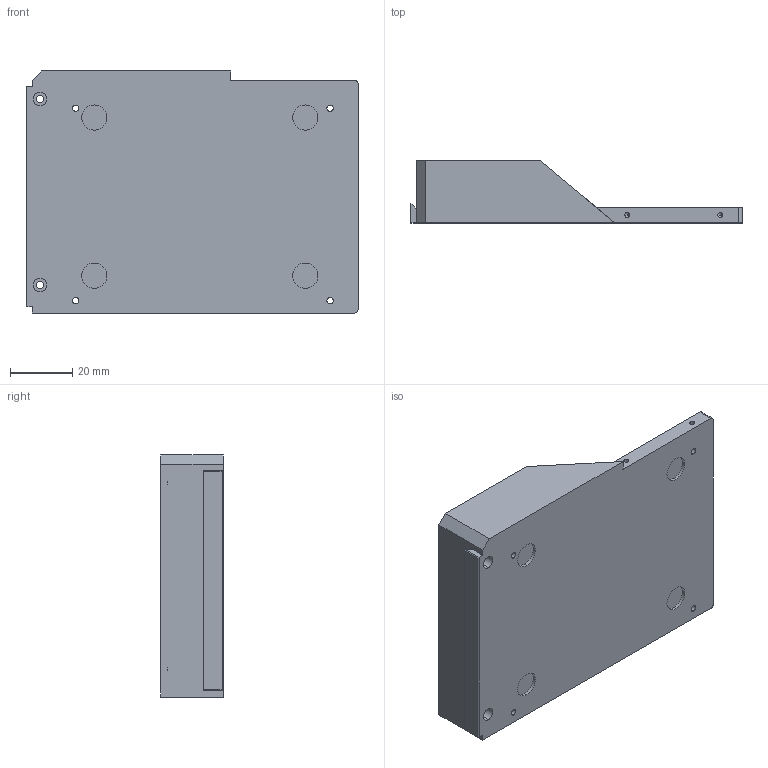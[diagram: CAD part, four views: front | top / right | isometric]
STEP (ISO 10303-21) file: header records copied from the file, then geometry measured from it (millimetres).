
FILE_DESCRIPTION (( 'STEP AP214' ), '1' );
FILE_NAME ('狟欶褲.STEP', '2026-07-03T01:30:42', ( '' ), ( '' ), 'SwSTEP 2.0', 'SolidWorks 2024', '' );
FILE_SCHEMA (( 'AUTOMOTIVE_DESIGN' ));
Length unit declared in the file: millimetre
Products named in the file (1): 下罩壳
Bounding box: 107 x 20 x 78 mm (x, y, z)
Volume: 47940.9 mm3; surface area: 23001.3 mm2
Topology: 1 solids, 1 shells, 77 faces, 192 edges, 117 vertices
Faces by surface type: cylinder 39, plane 26, cone 12
Entity records: 2267 total; most frequent: DIRECTION 414, CARTESIAN_POINT 375, ORIENTED_EDGE 360, EDGE_CURVE 180, AXIS2_PLACEMENT_3D 156, VERTEX_POINT 117, VECTOR 102, LINE 102
